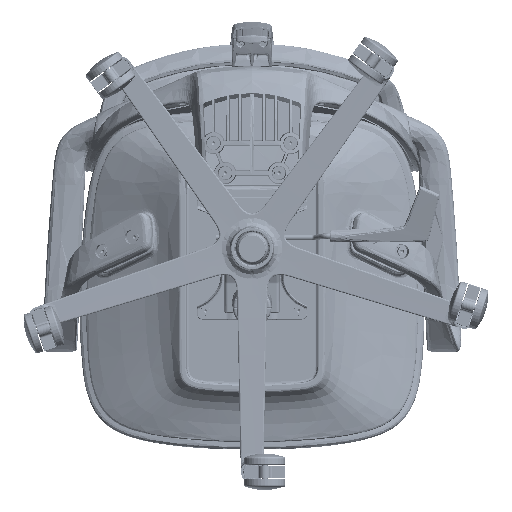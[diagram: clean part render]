
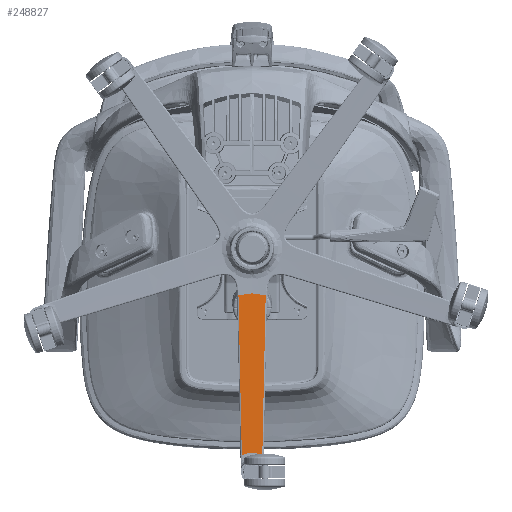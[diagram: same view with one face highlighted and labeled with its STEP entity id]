
A CAD part, front view. The second image highlights one B-rep face of the part: STEP entity #248827.
In plain terms, the highlighted conical face has half-angle 87.813 degrees and reference radius 182.547 mm.
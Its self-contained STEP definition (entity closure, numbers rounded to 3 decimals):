
#237952=CARTESIAN_POINT('',(0.,81.178,
296.515));
#238025=CARTESIAN_POINT('',(0.,90.02,
64.951));
#238026=CARTESIAN_POINT('',(1.087,90.02,
64.954));
#238027=CARTESIAN_POINT('',(3.327,90.012,
65.1));
#238028=CARTESIAN_POINT('',(7.031,89.976,
65.755));
#238029=CARTESIAN_POINT('',(10.995,89.924,
66.613));
#238030=CARTESIAN_POINT('',(15.481,89.861,
67.391));
#238031=CARTESIAN_POINT('',(18.322,89.83,
67.493));
#238032=CARTESIAN_POINT('',(19.733,89.816,
67.476));
#238037=CARTESIAN_POINT('',(0.,90.02,
64.951));
#238038=CARTESIAN_POINT('',(-1.087,90.02,
64.954));
#238039=CARTESIAN_POINT('',(-3.327,90.012,
65.1));
#238040=CARTESIAN_POINT('',(-7.031,89.976,
65.755));
#238041=CARTESIAN_POINT('',(-10.995,89.924,
66.613));
#238042=CARTESIAN_POINT('',(-15.481,89.861,
67.391));
#238043=CARTESIAN_POINT('',(-18.322,89.83,
67.493));
#238044=CARTESIAN_POINT('',(-19.733,89.816,
67.476));
#238049=CARTESIAN_POINT('',(-19.733,89.816,
67.476));
#238050=CARTESIAN_POINT('',(-19.698,89.754,
69.159));
#238051=CARTESIAN_POINT('',(-19.624,89.624,
72.724));
#238052=CARTESIAN_POINT('',(-19.502,89.408,
78.613));
#238053=CARTESIAN_POINT('',(-19.366,89.165,
85.176));
#238054=CARTESIAN_POINT('',(-19.213,88.892,
92.515));
#238055=CARTESIAN_POINT('',(-19.041,88.584,
100.783));
#238056=CARTESIAN_POINT('',(-18.851,88.243,
109.884));
#238057=CARTESIAN_POINT('',(-18.645,87.874,
119.709));
#238058=CARTESIAN_POINT('',(-18.422,87.472,
130.385));
#238059=CARTESIAN_POINT('',(-18.179,87.035,
141.971));
#238060=CARTESIAN_POINT('',(-17.915,86.559,
154.555));
#238061=CARTESIAN_POINT('',(-17.628,86.042,
168.217));
#238062=CARTESIAN_POINT('',(-17.316,85.479,
183.073));
#238063=CARTESIAN_POINT('',(-16.978,84.868,
199.161));
#238064=CARTESIAN_POINT('',(-16.606,84.196,
216.842));
#238065=CARTESIAN_POINT('',(-16.213,83.488,
235.474));
#238066=CARTESIAN_POINT('',(-15.88,82.886,
251.286));
#238067=CARTESIAN_POINT('',(-15.581,82.345,
265.49));
#238068=CARTESIAN_POINT('',(-15.312,81.863,
278.168));
#238069=CARTESIAN_POINT('',(-15.077,81.428,
289.583));
#238070=CARTESIAN_POINT('',(-14.921,81.164,
296.502));
#238071=CARTESIAN_POINT('',(-14.857,81.04,
299.776));
#238076=CARTESIAN_POINT('',(-14.857,81.04,
299.776));
#238077=CARTESIAN_POINT('',(-14.226,81.052,
299.484));
#238078=CARTESIAN_POINT('',(-12.218,81.088,
298.629));
#238079=CARTESIAN_POINT('',(-8.723,81.135,
297.516));
#238080=CARTESIAN_POINT('',(-4.368,81.17,
296.698));
#238081=CARTESIAN_POINT('',(-1.45,81.178,
296.515));
#238082=CARTESIAN_POINT('',(0.,81.178,
296.515));
#238087=CARTESIAN_POINT('',(14.857,81.04,
299.776));
#238088=CARTESIAN_POINT('',(14.226,81.052,
299.484));
#238089=CARTESIAN_POINT('',(12.218,81.088,
298.629));
#238090=CARTESIAN_POINT('',(8.723,81.135,
297.516));
#238091=CARTESIAN_POINT('',(4.368,81.17,
296.698));
#238092=CARTESIAN_POINT('',(1.45,81.178,
296.515));
#238093=CARTESIAN_POINT('',(0.,81.178,
296.515));
#238098=CARTESIAN_POINT('',(19.733,89.816,
67.476));
#238099=CARTESIAN_POINT('',(19.698,89.754,
69.159));
#238100=CARTESIAN_POINT('',(19.624,89.624,
72.724));
#238101=CARTESIAN_POINT('',(19.502,89.408,
78.613));
#238102=CARTESIAN_POINT('',(19.366,89.165,
85.176));
#238103=CARTESIAN_POINT('',(19.213,88.892,
92.515));
#238104=CARTESIAN_POINT('',(19.041,88.584,
100.783));
#238105=CARTESIAN_POINT('',(18.851,88.243,
109.884));
#238106=CARTESIAN_POINT('',(18.645,87.874,
119.709));
#238107=CARTESIAN_POINT('',(18.422,87.472,
130.385));
#238108=CARTESIAN_POINT('',(18.179,87.035,
141.971));
#238109=CARTESIAN_POINT('',(17.915,86.559,
154.555));
#238110=CARTESIAN_POINT('',(17.628,86.042,
168.217));
#238111=CARTESIAN_POINT('',(17.316,85.479,
183.073));
#238112=CARTESIAN_POINT('',(16.978,84.868,
199.161));
#238113=CARTESIAN_POINT('',(16.606,84.196,
216.842));
#238114=CARTESIAN_POINT('',(16.213,83.488,
235.474));
#238115=CARTESIAN_POINT('',(15.88,82.886,
251.286));
#238116=CARTESIAN_POINT('',(15.581,82.345,
265.49));
#238117=CARTESIAN_POINT('',(15.312,81.863,
278.168));
#238118=CARTESIAN_POINT('',(15.077,81.428,
289.583));
#238119=CARTESIAN_POINT('',(14.921,81.164,
296.502));
#238120=CARTESIAN_POINT('',(14.857,81.04,
299.776));
#238158=CARTESIAN_POINT('',(0.,90.02,
64.951));
#247570=VERTEX_POINT('',#238158);
#247572=VERTEX_POINT('',#237952);
#247584=VERTEX_POINT('',#238087);
#247585=VERTEX_POINT('',#238032);
#247586=VERTEX_POINT('',#238076);
#247587=VERTEX_POINT('',#238044);
#248810=CARTESIAN_POINT('',(0.,85.53,0.));
#248811=DIRECTION('',(0.,-1.,0.));
#248812=DIRECTION('',(0.,0.,1.));
#248813=AXIS2_PLACEMENT_3D('',#248810,#248811,#248812);
#248814=CONICAL_SURFACE('',#248813,182.547,87.813);
#248816=ORIENTED_EDGE('',*,*,#248815,.F.);
#248818=ORIENTED_EDGE('',*,*,#248817,.T.);
#248820=ORIENTED_EDGE('',*,*,#248819,.T.);
#248821=ORIENTED_EDGE('',*,*,#248798,.T.);
#248822=ORIENTED_EDGE('',*,*,#248714,.F.);
#248824=ORIENTED_EDGE('',*,*,#248823,.F.);
#248825=EDGE_LOOP('',(#248816,#248818,#248820,#248821,#248822,#248824));
#248826=FACE_OUTER_BOUND('',#248825,.F.);
#238033=B_SPLINE_CURVE_WITH_KNOTS('',3,(#238025,#238026,#238027,#238028,#238029,
#238030,#238031,#238032),.UNSPECIFIED.,.F.,.F.,(4,1,1,1,1,4),(0.,0.2,0.4,
0.6,0.8,1.),.UNSPECIFIED.);
#238045=B_SPLINE_CURVE_WITH_KNOTS('',3,(#238037,#238038,#238039,#238040,#238041,
#238042,#238043,#238044),.UNSPECIFIED.,.F.,.F.,(4,1,1,1,1,4),(0.,0.2,0.4,
0.6,0.8,1.),.UNSPECIFIED.);
#238072=B_SPLINE_CURVE_WITH_KNOTS('',3,(#238049,#238050,#238051,#238052,#238053,
#238054,#238055,#238056,#238057,#238058,#238059,#238060,#238061,#238062,#238063,
#238064,#238065,#238066,#238067,#238068,#238069,#238070,#238071),.UNSPECIFIED.,
.F.,.F.,(4,1,1,1,1,1,1,1,1,1,1,1,1,1,1,1,1,1,1,1,4),(0.,0.05,0.1,0.15,
0.2,0.25,0.3,0.35,0.4,0.45,0.5,0.55,0.6,0.65,0.7,0.75,
0.8,0.85,0.9,0.95,1.),.UNSPECIFIED.);
#238083=B_SPLINE_CURVE_WITH_KNOTS('',3,(#238076,#238077,#238078,#238079,#238080,
#238081,#238082),.UNSPECIFIED.,.F.,.F.,(4,1,1,1,4),(0.,0.135,
0.423,0.712,1.),.UNSPECIFIED.);
#238094=B_SPLINE_CURVE_WITH_KNOTS('',3,(#238087,#238088,#238089,#238090,#238091,
#238092,#238093),.UNSPECIFIED.,.F.,.F.,(4,1,1,1,4),(0.,0.135,
0.423,0.712,1.),.UNSPECIFIED.);
#238121=B_SPLINE_CURVE_WITH_KNOTS('',3,(#238098,#238099,#238100,#238101,#238102,
#238103,#238104,#238105,#238106,#238107,#238108,#238109,#238110,#238111,#238112,
#238113,#238114,#238115,#238116,#238117,#238118,#238119,#238120),.UNSPECIFIED.,
.F.,.F.,(4,1,1,1,1,1,1,1,1,1,1,1,1,1,1,1,1,1,1,1,4),(0.,0.05,0.1,0.15,
0.2,0.25,0.3,0.35,0.4,0.45,0.5,0.55,0.6,0.65,0.7,0.75,
0.8,0.85,0.9,0.95,1.),.UNSPECIFIED.);
#248714=EDGE_CURVE('',#247584,#247572,#238094,.T.);
#248798=EDGE_CURVE('',#247586,#247572,#238083,.T.);
#248815=EDGE_CURVE('',#247570,#247585,#238033,.T.);
#248817=EDGE_CURVE('',#247570,#247587,#238045,.T.);
#248819=EDGE_CURVE('',#247587,#247586,#238072,.T.);
#248823=EDGE_CURVE('',#247585,#247584,#238121,.T.);
#248827=ADVANCED_FACE('',(#248826),#248814,.F.);
